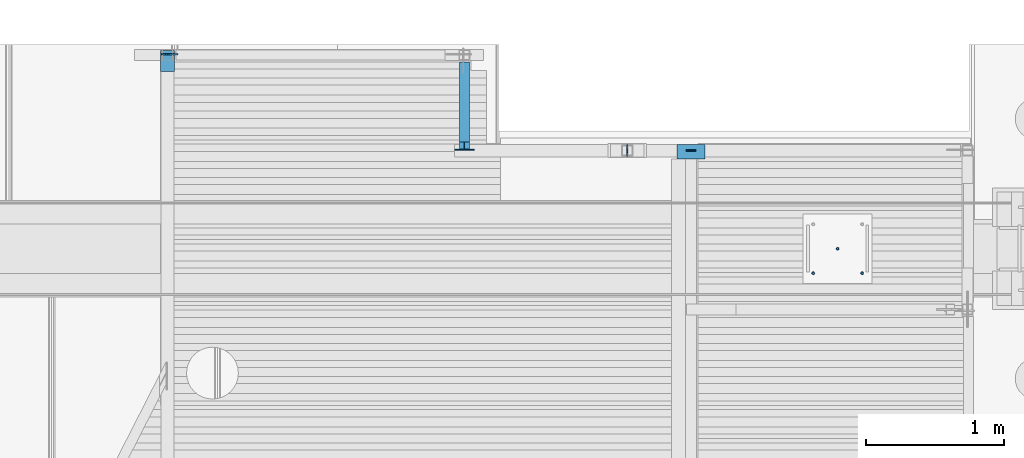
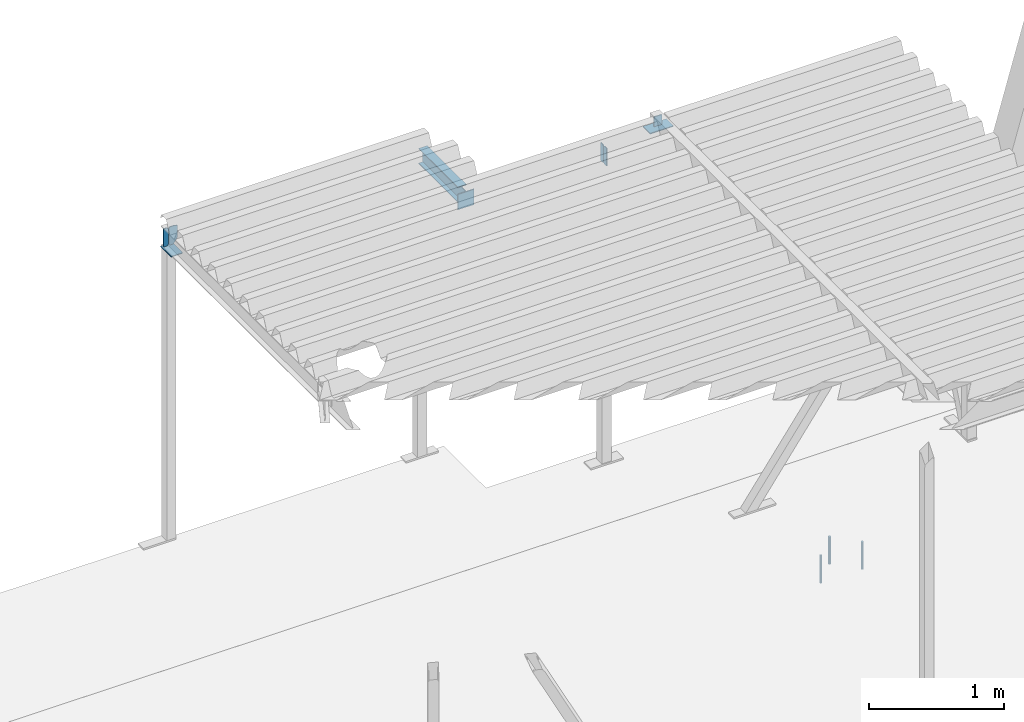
# One storey, part 23 of 30: 12 beams.
"""IFC2X3 building model written with IfcOpenShell, lengths in millimetres."""

from ifc_helpers import new_model, entity, si_unit, converted_unit, derived_unit, direction, frame, origin_with_axes, place, context, subcontext, project, spatial, faceted_brep, material, type_object, element, save


model = new_model("IFC2X3")

# Units and contexts
model_context = context("Model", 3, precision=0.01, world=frame((0.0, 4.29681676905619e-09, 0.0)), true_north=direction((4.01073788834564e-13, 1.0)))
plan_context = context("Plan", 3, precision=0.01, world=frame((0.0, 4.29681676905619e-09, 0.0)), true_north=direction((4.01073788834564e-13, 1.0)))
body_context = subcontext(model_context, "Body", "Model", "MODEL_VIEW")
ifc_project = project(units=[converted_unit("PLANEANGLEUNIT", "DEGREE", entity("IfcPositiveLengthMeasure", 0.0174532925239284), si_unit("PLANEANGLEUNIT", "RADIAN"), dimensions=[0, 0, 0, 0, 0, 0, 0]), si_unit("AREAUNIT", "SQUARE_METRE"), si_unit("LENGTHUNIT", "METRE", prefix="MILLI"), si_unit("MASSUNIT", "GRAM", prefix="KILO"), si_unit("POWERUNIT", "WATT"), si_unit("PRESSUREUNIT", "PASCAL"), si_unit("FORCEUNIT", "NEWTON", prefix="KILO"), si_unit("ELECTRICVOLTAGEUNIT", "VOLT"), si_unit("ELECTRICCURRENTUNIT", "AMPERE"), si_unit("THERMODYNAMICTEMPERATUREUNIT", "DEGREE_CELSIUS"), si_unit("TIMEUNIT", "SECOND"), si_unit("VOLUMEUNIT", "CUBIC_METRE"), derived_unit("LINEARVELOCITYUNIT", [(si_unit("LENGTHUNIT", "METRE"), 1), (si_unit("TIMEUNIT", "SECOND"), -1)]), derived_unit("VOLUMETRICFLOWRATEUNIT", [(si_unit("VOLUMEUNIT", "CUBIC_METRE"), 1), (si_unit("TIMEUNIT", "SECOND"), -1)]), derived_unit("THERMALTRANSMITTANCEUNIT", [(si_unit("POWERUNIT", "WATT"), 1), (si_unit("THERMODYNAMICTEMPERATUREUNIT", "KELVIN"), -1), (si_unit("AREAUNIT", "SQUARE_METRE"), -1)]), derived_unit("SOUNDPRESSUREUNIT", [(si_unit("PRESSUREUNIT", "PASCAL"), 1)])], contexts=[model_context, plan_context])

# Site, building, storey
site_placement = place(None, frame((0.0, -4.29681676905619e-09, 0.0), z_axis=(0.0, 0.0, 1.0), x_axis=(1.0, 0.0, 0.0)))
site = spatial("IfcSite", under=ifc_project, at=site_placement, Name="Gardermoen", CompositionType="ELEMENT")
building_placement = place(site_placement, frame((0.0, 4.29681676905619e-09, 0.0), z_axis=(0.0, 0.0, 1.0), x_axis=(1.0, 0.0, 0.0)))
building = spatial("IfcBuilding", under=site, at=building_placement, Name="TI", CompositionType="ELEMENT")
storey_placement = place(building_placement, origin_with_axes())
storey = spatial("IfcBuildingStorey", under=building, at=storey_placement, Name="F", CompositionType="ELEMENT", Elevation=0.0)

# Beams
ifc_material_1 = material(Name="STEEL/S355")
beam_type_1 = type_object("IfcBeamType", Name="PL8*100", PredefinedType="NOTDEFINED")
beam_1_placement = place(storey_placement, frame((605502.911208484, 699435.492290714, 213515.999698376), z_axis=(-1.0, 0.0, 0.0), x_axis=(0.0, -1.0, 0.0)))
element("IfcBeam", 1, at=beam_1_placement, inside=storey, type_object=beam_type_1, material=ifc_material_1, Name="STÅLBJELKE", ObjectType="PL8*100", context=body_context, shape_type="Brep", body=[
    faceted_brep([(-6.98491930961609e-10, 4.0, -49.9999999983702), (5.82076609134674e-10, 4.0, 49.9999999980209), (155.000000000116, 3.99999999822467, 49.9999999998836), (155.000000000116, 3.99999999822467, -50.0000000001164), (4.07453626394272e-10, -4.0, 49.9999999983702), (155.000000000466, -4.00000000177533, 49.9999999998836), (-9.89530235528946e-10, -4.0, -49.9999999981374), (155.000000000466, -4.00000000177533, -50.0000000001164)], [[[0, 1, 2, 3]], [[1, 4, 5, 2]], [[4, 6, 7, 5]], [[6, 0, 3, 7]], [[5, 7, 3, 2]], [[6, 4, 1, 0]]]),
])
beam_type_2 = type_object("IfcBeamType", Name="PL8*200", PredefinedType="NOTDEFINED")
beam_2_placement = place(storey_placement, frame((609289.642571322, 698649.504039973, 213703.997128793), z_axis=(-1.0, 0.0, 0.0), x_axis=(0.0, 1.0, 0.0)))
element("IfcBeam", 2, at=beam_2_placement, inside=storey, type_object=beam_type_2, material=ifc_material_1, Name="STÅLBJELKE", ObjectType="PL8*200", context=body_context, shape_type="Brep", body=[
    faceted_brep([(-4.07453626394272e-09, 3.99999999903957, -100.000000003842), (4.30736690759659e-09, 4.00000000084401, 100.000000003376), (106.0, 4.0, 100.0), (106.0, 4.0, -100.0), (3.95812094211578e-09, -3.99999999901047, 100.000000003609), (106.0, -4.0, 100.0), (-4.30736690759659e-09, -4.00000000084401, -100.000000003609), (106.0, -4.0, -100.0)], [[[0, 1, 2, 3]], [[1, 4, 5, 2]], [[4, 6, 7, 5]], [[6, 0, 3, 7]], [[5, 7, 3, 2]], [[6, 4, 1, 0]]]),
])
beam_type_3 = type_object("IfcBeamType", Name="PL8*140", PredefinedType="NOTDEFINED")
beam_3_placement = place(storey_placement, frame((607650.002571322, 698716.656720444, 213539.999809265), z_axis=(-0.999999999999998, 5.80000057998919e-08, 0.0), x_axis=(0.0, 0.0, 1.0)))
element("IfcBeam", 3, at=beam_3_placement, inside=storey, type_object=beam_type_3, material=ifc_material_1, Name="STÅLBJELKE", ObjectType="PL8*140", context=body_context, shape_type="Brep", body=[
    faceted_brep([(5.82076609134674e-11, 4.00000000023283, -70.0), (5.82076609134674e-11, 4.00000000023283, 70.0), (140.000000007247, 3.99999999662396, 70.0000000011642), (140.000000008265, 3.99999999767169, -70.0000000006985), (0.0, -4.00000000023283, 70.0), (140.000000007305, -4.00000000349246, 70.0000000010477), (0.0, -4.00000000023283, -70.0), (140.000000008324, -4.00000000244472, -70.0000000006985)], [[[0, 1, 2, 3]], [[1, 4, 5, 2]], [[4, 6, 7, 5]], [[6, 0, 3, 7]], [[5, 7, 3, 2]], [[6, 4, 1, 0]]]),
])
ifc_material_2 = material(Name="STEEL/S355J2H")
beam_type_4 = type_object("IfcBeamType", Name="IPE140", PredefinedType="NOTDEFINED")
beam_4_placement = place(storey_placement, frame((607650.002571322, 699350.484039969, 213629.999809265), z_axis=(0.0, 0.0, 1.0), x_axis=(0.0, -1.0, 0.0)))
element("IfcBeam", 4, at=beam_4_placement, inside=storey, type_object=beam_type_4, material=ifc_material_2, Name="STÅLBJELKE", ObjectType="IPE140", context=body_context, shape_type="Brep", body=[
    faceted_brep([(579.978004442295, -36.5, 70.0), (579.978493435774, -36.5, 63.0999999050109), (579.978485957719, -2.34999990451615, 63.0999999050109), (579.978484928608, 2.34999990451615, 63.0999999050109), (579.978477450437, 36.5, 63.0999999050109), (579.977988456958, 36.5, 70.0), (587.979044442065, -2.34999990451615, 54.9962241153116), (587.979043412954, 2.34999990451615, 54.9962241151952), (629.825195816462, -2.34999990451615, 54.9991455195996), (629.825195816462, 2.34999990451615, 54.9991455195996), (-0.0226680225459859, -36.5, -70.0), (-0.0226680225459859, -36.5, -63.0999999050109), (-0.0226680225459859, -2.34999990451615, -63.0999999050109), (-0.0226680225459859, -2.34999990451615, 63.0999999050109), (-0.0226680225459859, -36.5, 63.0999999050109), (-0.0226680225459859, -36.5, 70.0), (-0.0226680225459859, 36.5, 70.0), (-0.0226680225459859, 36.5, 63.0999999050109), (-0.0226680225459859, 2.34999990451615, 63.0999999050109), (-0.0226680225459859, 2.34999990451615, -63.0999999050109), (-0.0226680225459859, 36.5, -63.0999999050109), (-0.0226680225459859, 36.5, -70.0), (629.825195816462, 2.34999990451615, -63.0999999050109), (629.825195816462, 36.5, -63.0999999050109), (629.825195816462, 36.5, -70.0), (629.825195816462, -36.5, -70.0), (629.825195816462, -36.5, -63.0999999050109), (629.825195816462, -2.34999990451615, -63.0999999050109)], [[[0, 1, 2, 3, 4, 5]], [[6, 7, 3, 2]], [[8, 9, 7, 6]], [[10, 11, 12, 13, 14, 15, 16, 17, 18, 19, 20, 21]], [[20, 19, 22, 23]], [[21, 20, 23, 24]], [[10, 21, 24, 25]], [[11, 10, 25, 26]], [[12, 11, 26, 27]], [[2, 13, 12, 27, 8, 6]], [[14, 13, 2, 1]], [[15, 14, 1, 0]], [[16, 15, 0, 5]], [[17, 16, 5, 4]], [[18, 17, 4, 3]], [[22, 19, 18, 3, 7, 9]], [[27, 26, 25, 24, 23, 22, 9, 8]]]),
])
beam_type_5 = type_object("IfcBeamType", Name="PL8*66", PredefinedType="NOTDEFINED")
beam_5_placement = place(storey_placement, frame((609289.642571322, 698710.064039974, 213708.997128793), z_axis=(-0.999999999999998, 5.80000057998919e-08, 0.0), x_axis=(0.0, 0.0, 1.0)))
element("IfcBeam", 5, at=beam_5_placement, inside=storey, type_object=beam_type_5, material=ifc_material_1, Name="STÅLBJELKE", ObjectType="PL8*66", context=body_context, shape_type="Brep", body=[
    faceted_brep([(0.0, 4.0, -33.0), (0.0, 4.0, 33.0), (90.0026804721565, 4.0, 33.0), (90.0026804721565, 4.0, -33.0), (0.0, -4.0, 33.0), (90.0026804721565, -4.0, 33.0), (0.0, -4.0, -33.0), (90.0026804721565, -4.0, -33.0)], [[[0, 1, 2, 3]], [[1, 4, 5, 2]], [[4, 6, 7, 5]], [[6, 0, 3, 7]], [[5, 7, 3, 2]], [[6, 4, 1, 0]]]),
])
beam_type_6 = type_object("IfcBeamType", Name="PL8*72", PredefinedType="NOTDEFINED")
beam_6_placement = place(storey_placement, frame((605545.553754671, 699406.842312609, 213527.999699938), z_axis=(0.0, 0.0, 1.0), x_axis=(-0.999999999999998, 5.80000057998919e-08, 0.0)))
element("IfcBeam", 6, at=beam_6_placement, inside=storey, type_object=beam_type_6, material=ifc_material_1, Name="STÅLBJELKE", ObjectType="PL8*72", context=body_context, shape_type="Brep", body=[
    faceted_brep([(-5.82076609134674e-11, -3.99999999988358, 0.0), (-32.3599967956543, -4.0, 47.0), (-32.3599967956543, 4.0, 47.0), (-5.82076609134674e-11, 4.00000000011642, -5.82076609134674e-11), (-32.3599967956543, -4.0, 157.000198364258), (-32.3599967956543, 4.0, 157.000198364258), (2.3283064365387e-10, -3.99999999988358, 164.0), (-2.3283064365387e-10, 4.00000000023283, 164.0), (30.0000000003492, -3.99999999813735, 164.0), (29.9999999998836, 4.00000000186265, 164.0), (40.0000000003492, -3.99999999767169, 154.0), (40.0, 4.00000000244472, 154.0), (40.0, -4.00000000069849, 10.0), (40.0000000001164, 3.99999999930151, 10.0), (30.0000000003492, -3.99999999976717, 0.0), (30.0000000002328, 4.00000000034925, 1.16415321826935e-10)], [[[0, 1, 2, 3]], [[1, 4, 5, 2]], [[4, 6, 7, 5]], [[6, 8, 9, 7]], [[8, 10, 11, 9]], [[10, 12, 13, 11]], [[12, 14, 15, 13]], [[14, 0, 3, 15]], [[5, 7, 9, 11, 13, 15, 3, 2]], [[14, 12, 10, 8, 6, 4, 1, 0]]]),
])
ifc_material_3 = material(Name="STEEL/S355J0")
beam_type_7 = type_object("IfcBeamType", Name="PL8*40", PredefinedType="NOTDEFINED")
for number, where, z_axis, x_axis in (
    (7, (605460.260719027, 699406.844957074, 213527.999847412), (9.81579360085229e-08, -1.56462793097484e-13, 0.999999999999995), (0.999999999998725, -1.59399025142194e-06, -9.81579360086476e-08)),
    (8, (608828.652344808, 698752.657306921, 213527.999885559), (0.0, 0.0, 1.0), (-7.63999967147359e-07, -0.999999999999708, 0.0)),
):
    element("IfcBeam", number, at=place(storey_placement, frame(where, z_axis=z_axis, x_axis=x_axis)), inside=storey, type_object=beam_type_7, material=ifc_material_3, Name="STÅLBJELKE", ObjectType="PL8*40", context=body_context, shape_type="Brep", body=[
        faceted_brep([(-5.82076609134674e-11, -3.99999999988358, 0.0), (2.3283064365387e-10, -3.99999999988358, 164.0), (-2.3283064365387e-10, 4.00000000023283, 164.0), (-5.82076609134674e-11, 4.00000000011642, -5.82076609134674e-11), (30.0000000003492, -3.99999999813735, 164.0), (29.9999999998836, 4.00000000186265, 164.0), (40.0000000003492, -3.99999999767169, 154.0), (40.0, 4.00000000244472, 154.0), (40.0, -4.00000000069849, 10.0), (40.0000000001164, 3.99999999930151, 10.0), (30.0000000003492, -3.99999999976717, 0.0), (30.0000000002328, 4.00000000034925, 1.16415321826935e-10)], [[[0, 1, 2, 3]], [[1, 4, 5, 2]], [[4, 6, 7, 5]], [[6, 8, 9, 7]], [[8, 10, 11, 9]], [[10, 0, 3, 11]], [[5, 7, 9, 11, 3, 2]], [[10, 8, 6, 4, 1, 0]]]),
    ])
beam_7_placement = place(storey_placement, frame((608828.652287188, 698707.35730673, 213527.999885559), z_axis=(0.0, 0.0, 1.0), x_axis=(-7.63999967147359e-07, -0.999999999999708, 0.0)))
element("IfcBeam", 9, at=beam_7_placement, inside=storey, type_object=beam_type_7, material=ifc_material_3, Name="STÅLBJELKE", ObjectType="PL8*40", context=body_context, shape_type="Brep", body=[
    faceted_brep([(7.10249878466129e-07, -4.00000000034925, 10.0000000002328), (1.16415321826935e-10, -4.0, 154.0), (-1.16415321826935e-10, 4.0, 154.0), (7.10017047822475e-07, 3.99999999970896, 10.000000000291), (10.0000000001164, -3.99999999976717, 164.0), (9.99999999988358, 4.00000000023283, 164.0), (40.0000000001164, -3.99999999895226, 164.0), (39.9999999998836, 4.00000000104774, 164.0), (40.0000000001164, -3.99999999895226, 2.91038304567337e-11), (39.9999999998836, 4.00000000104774, 2.91038304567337e-11), (10.0000000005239, -4.0, 3.78349795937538e-10), (10.0000000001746, 3.99999999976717, 4.65661287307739e-10)], [[[0, 1, 2, 3]], [[1, 4, 5, 2]], [[4, 6, 7, 5]], [[6, 8, 9, 7]], [[8, 10, 11, 9]], [[10, 0, 3, 11]], [[5, 7, 9, 11, 3, 2]], [[10, 8, 6, 4, 1, 0]]]),
])
beam_type_8 = type_object("IfcBeamType", Name="M20", PredefinedType="NOTDEFINED")
for number, where, z_axis, x_axis in (
    (10, (610526.779766, 697823.22, 210050.0), (1.0, 0.0, 0.0), (0.0, 0.0, -1.0)),
    (11, (610173.219766, 697823.22, 210050.0), (1.0, 0.0, 0.0), (0.0, 0.0, -1.0)),
    (12, (610349.999766, 698000.0, 210050.0), (1.0, 0.0, 0.0), (0.0, 0.0, -1.0)),
):
    element("IfcBeam", number, at=place(storey_placement, frame(where, z_axis=z_axis, x_axis=x_axis)), inside=storey, type_object=beam_type_8, material=ifc_material_1, Name="INNSTØPNGODS", ObjectType="M20", context=body_context, shape_type="Brep", body=[
        faceted_brep([(0.0, -10.0, -1.16415321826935e-10), (0.0, -7.07106781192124, -7.07106781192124), (250.0, -7.07106781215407, -7.07106781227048), (250.0, -10.0000000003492, 1.74622982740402e-10), (0.0, 0.0, -10.0), (250.0, 5.82076609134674e-11, -10.0000000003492), (0.0, 7.07106781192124, -7.07106781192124), (250.0, 7.07106781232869, -7.07106781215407), (0.0, 10.0, -1.16415321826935e-10), (250.0, 10.0, 0.0), (0.0, 7.07106781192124, 7.07106781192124), (250.0, 7.07106781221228, 7.07106781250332), (0.0, 0.0, 10.0), (250.0, -5.82076609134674e-11, 10.0000000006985), (0.0, -7.07106781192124, 7.07106781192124), (250.0, -7.07106781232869, 7.07106781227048)], [[[0, 1, 2, 3]], [[1, 4, 5, 2]], [[4, 6, 7, 5]], [[6, 8, 9, 7]], [[8, 10, 11, 9]], [[10, 12, 13, 11]], [[12, 14, 15, 13]], [[14, 0, 3, 15]], [[5, 7, 9, 11, 13, 15, 3, 2]], [[14, 12, 10, 8, 6, 4, 1, 0]]]),
    ])

save(model, "model.ifc")
